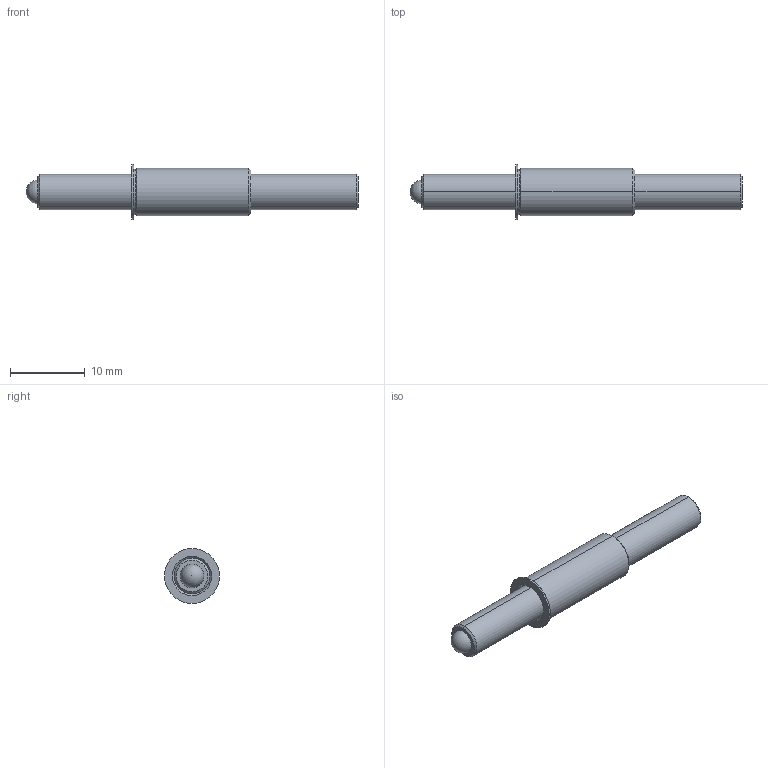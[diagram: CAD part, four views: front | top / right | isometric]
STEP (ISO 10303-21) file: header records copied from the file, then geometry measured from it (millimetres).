
FILE_DESCRIPTION (( 'STEP AP214' ), '1' );
FILE_NAME ('TSB187-100-1750_625.STEP', '2013-03-13T13:36:26', ( 'workpc' ), ( 'Microsoft' ), 'SwSTEP 2.0', 'SolidWorks 2013', '' );
FILE_SCHEMA (( 'AUTOMOTIVE_DESIGN' ));
Length unit declared in the file: inch
Products named in the file (1): TSB187-100-1750_625
Bounding box: 44.45 x 7.37 x 7.37 mm (x, y, z)
Surface area: 1077.9 mm2 (no closed solid volume)
Topology: 0 solids, 3 shells, 33 faces, 77 edges, 49 vertices
Faces by surface type: cone 12, plane 11, cylinder 8, sphere 2
Entity records: 1358 total; most frequent: DIRECTION 174, CARTESIAN_POINT 152, ORIENTED_EDGE 132, EDGE_CURVE 72, AXIS2_PLACEMENT_3D 68, VERTEX_POINT 46, EDGE_LOOP 38, LINE 38
